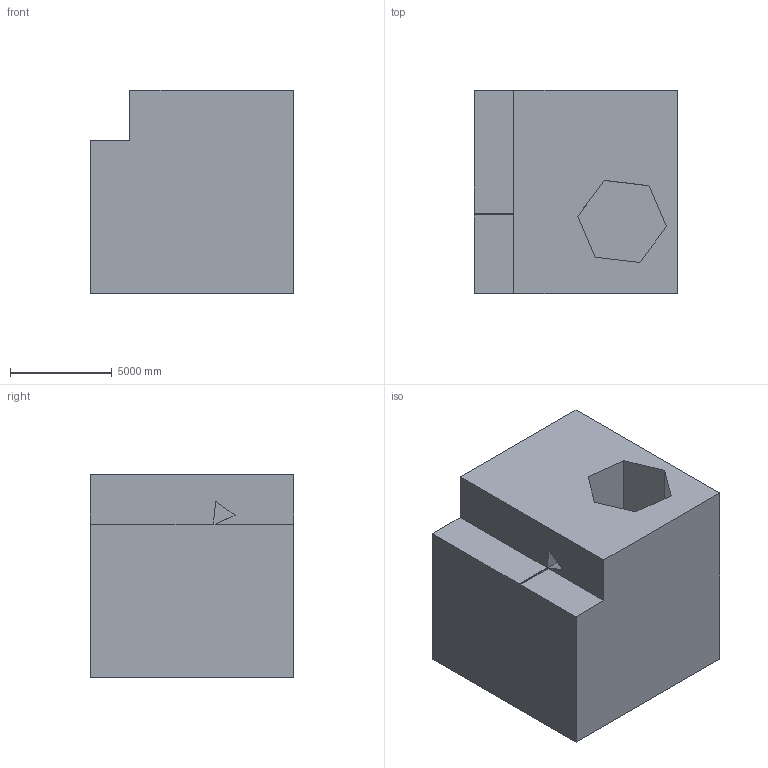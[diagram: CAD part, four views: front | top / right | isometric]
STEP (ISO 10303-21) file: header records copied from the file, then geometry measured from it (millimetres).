
FILE_DESCRIPTION (( 'STEP AP203' ), '1' );
FILE_NAME ('1282.STEP', '2022-08-18T13:33:01', ( 'user' ), ( '' ), 'SwSTEP 2.0', 'SolidWorks 2021', '' );
FILE_SCHEMA (( 'CONFIG_CONTROL_DESIGN' ));
Length unit declared in the file: centimetre
Products named in the file (1): 1282
Bounding box: 10000 x 10000 x 10000 mm (x, y, z)
Volume: 912266552851.7 mm3; surface area: 638367370.8 mm2
Topology: 1 solids, 1 shells, 20 faces, 51 edges, 34 vertices
Faces by surface type: plane 20
Entity records: 672 total; most frequent: CARTESIAN_POINT 106, ORIENTED_EDGE 102, DIRECTION 93, VECTOR 51, EDGE_CURVE 51, LINE 51, VERTEX_POINT 34, EDGE_LOOP 21
